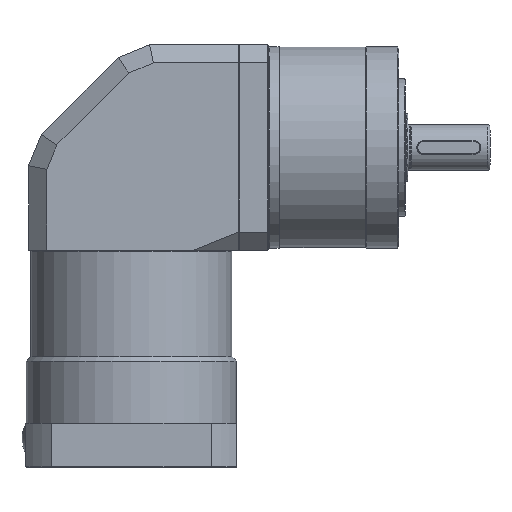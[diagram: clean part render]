
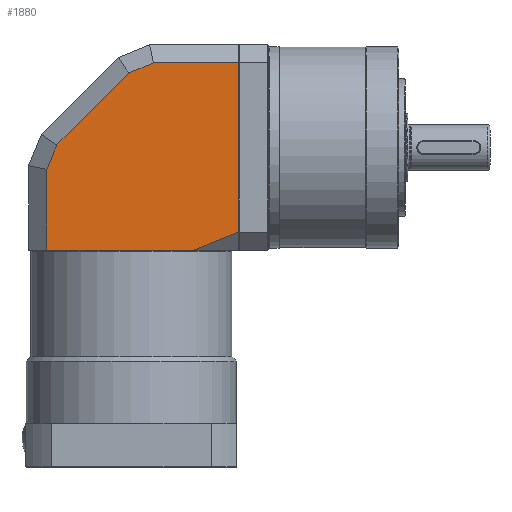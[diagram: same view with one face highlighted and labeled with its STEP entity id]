
A CAD part, front view. The second image highlights one B-rep face of the part: STEP entity #1880.
In plain terms, the highlighted planar face has unit normal (0, -1, 0).
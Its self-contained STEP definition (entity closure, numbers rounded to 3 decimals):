
#298=FACE_OUTER_BOUND('',#3092,.T.);
#647=LINE('',#11262,#1122);
#649=LINE('',#11266,#1124);
#668=LINE('',#11304,#1143);
#675=LINE('',#11318,#1150);
#681=LINE('',#11330,#1156);
#692=LINE('',#11352,#1167);
#693=LINE('',#11354,#1168);
#695=LINE('',#11358,#1170);
#1122=VECTOR('',#8971,1.);
#1124=VECTOR('',#8975,1.);
#1143=VECTOR('',#9008,1.);
#1150=VECTOR('',#9021,1.);
#1156=VECTOR('',#9031,1.);
#1167=VECTOR('',#9050,1.);
#1168=VECTOR('',#9053,1.);
#1170=VECTOR('',#9057,1.);
#1880=ADVANCED_FACE('',(#298),#2314,.T.);
#2314=PLANE('',#7732);
#3092=EDGE_LOOP('',(#4104,#4105,#4106,#4107,#4108,#4109,#4110,#4111));
#4104=ORIENTED_EDGE('',*,*,#6403,.F.);
#4105=ORIENTED_EDGE('',*,*,#6405,.T.);
#4106=ORIENTED_EDGE('',*,*,#6391,.T.);
#4107=ORIENTED_EDGE('',*,*,#6385,.T.);
#4108=ORIENTED_EDGE('',*,*,#6378,.T.);
#4109=ORIENTED_EDGE('',*,*,#6359,.T.);
#4110=ORIENTED_EDGE('',*,*,#6357,.T.);
#4111=ORIENTED_EDGE('',*,*,#6402,.F.);
#5644=VERTEX_POINT('',#11259);
#5645=VERTEX_POINT('',#11261);
#5646=VERTEX_POINT('',#11265);
#5657=VERTEX_POINT('',#11301);
#5661=VERTEX_POINT('',#11315);
#5666=VERTEX_POINT('',#11328);
#5673=VERTEX_POINT('',#11351);
#5674=VERTEX_POINT('',#11355);
#6357=EDGE_CURVE('',#5644,#5645,#647,.T.);
#6359=EDGE_CURVE('',#5646,#5644,#649,.T.);
#6378=EDGE_CURVE('',#5657,#5646,#668,.T.);
#6385=EDGE_CURVE('',#5661,#5657,#675,.T.);
#6391=EDGE_CURVE('',#5666,#5661,#681,.T.);
#6402=EDGE_CURVE('',#5673,#5645,#692,.T.);
#6403=EDGE_CURVE('',#5674,#5673,#693,.T.);
#6405=EDGE_CURVE('',#5674,#5666,#695,.T.);
#7732=AXIS2_PLACEMENT_3D('',#11359,#9058,#9059);
#8971=DIRECTION('',(0.,0.,-1.));
#8975=DIRECTION('',(-0.383,0.,-0.924));
#9008=DIRECTION('',(-0.707,0.,-0.707));
#9021=DIRECTION('',(-0.924,0.,-0.383));
#9031=DIRECTION('',(-1.,0.,0.));
#9050=DIRECTION('',(-1.,0.,0.));
#9053=DIRECTION('',(-0.928,0.,-0.371));
#9057=DIRECTION('',(0.,0.,1.));
#9058=DIRECTION('',(0.,-1.,0.));
#9059=DIRECTION('',(0.,0.,-1.));
#11259=CARTESIAN_POINT('',(-37.,-45.,130.409));
#11261=CARTESIAN_POINT('',(-37.,-45.,95.));
#11262=CARTESIAN_POINT('',(-37.,-45.,95.));
#11265=CARTESIAN_POINT('',(-32.561,-45.,141.125));
#11266=CARTESIAN_POINT('',(-37.609,-45.,128.939));
#11301=CARTESIAN_POINT('',(-1.125,-45.,172.561));
#11304=CARTESIAN_POINT('',(-33.686,-45.,140.));
#11315=CARTESIAN_POINT('',(9.591,-45.,177.));
#11318=CARTESIAN_POINT('',(-2.595,-45.,171.952));
#11328=CARTESIAN_POINT('',(47.,-45.,177.));
#11330=CARTESIAN_POINT('',(8.,-45.,177.));
#11351=CARTESIAN_POINT('',(27.,-45.,95.));
#11352=CARTESIAN_POINT('',(47.,-45.,95.));
#11354=CARTESIAN_POINT('',(19.241,-45.,91.897));
#11355=CARTESIAN_POINT('',(47.,-45.,103.));
#11358=CARTESIAN_POINT('',(47.,-45.,90.));
#11359=CARTESIAN_POINT('',(0.,-45.,140.));
